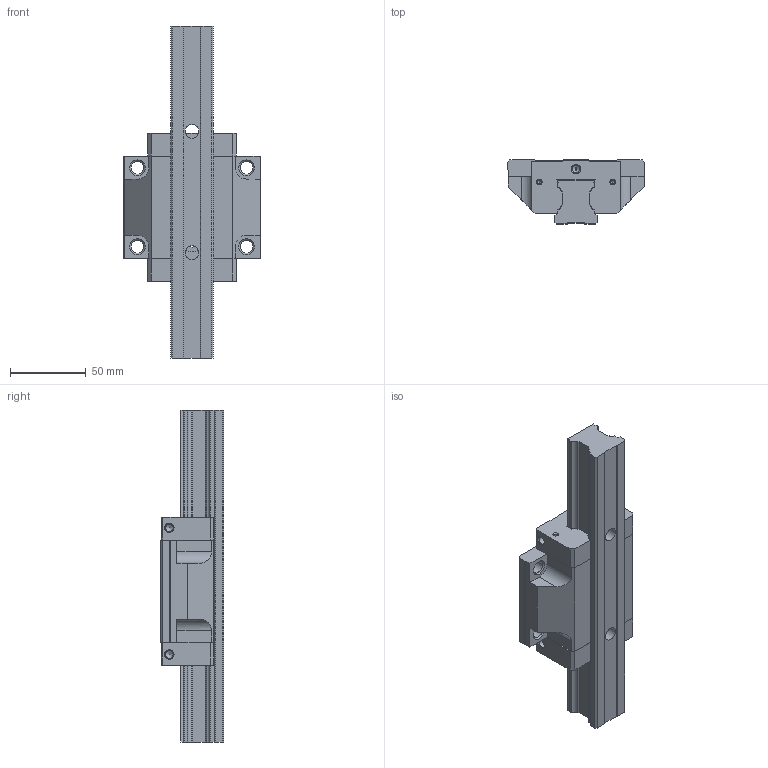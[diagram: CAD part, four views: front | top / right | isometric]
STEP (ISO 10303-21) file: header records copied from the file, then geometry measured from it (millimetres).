
FILE_DESCRIPTION(/* description */ ('Unknown'),/* implementation_level */ '2;1');
FILE_NAME(/* name */ 'SIZE30',/* time_stamp */ '2019-11-14T13:54:18-05:00',/* author */ ('Unknown'),/* organization */ ('Unknown'),/* preprocessor_version */ 'ST-DEVELOPER v16.7',/* originating_system */ 'Solid Edge',/* authorisation */ 'Unknown');
FILE_SCHEMA (('AUTOMOTIVE_DESIGN {1 0 10303 214 3 1 1}'));
Length unit declared in the file: millimetre
Products named in the file (5): SIZE30; SW16RAIL-SZ30-R160570431_3836; R160570431_3836_1; Rexroth-R1651-714-20; RUSIZE_0413610483262
Assembly tree (4 placements, depth 3):
  SIZE30
    SW16RAIL-SZ30-R160570431_3836
      R160570431_3836_1
    Rexroth-R1651-714-20
      RUSIZE_0413610483262
Bounding box: 90 x 42 x 218.76 mm (x, y, z)
Volume: 317644.6 mm3; surface area: 62191.8 mm2
Topology: 2 solids, 2 shells, 188 faces, 510 edges, 334 vertices
Faces by surface type: plane 116, cylinder 42, cone 30
Full cylindrical faces by diameter (mm): 0.8 x2, 2.5 x4, 5 x8, 8.5 x6, 9 x2, 15 x4
Entity records: 6596 total; most frequent: CARTESIAN_POINT 961, DIRECTION 914, ORIENTED_EDGE 852, EDGE_CURVE 426, LINE 320, VECTOR 320, VERTEX_POINT 314, AXIS2_PLACEMENT_3D 297
